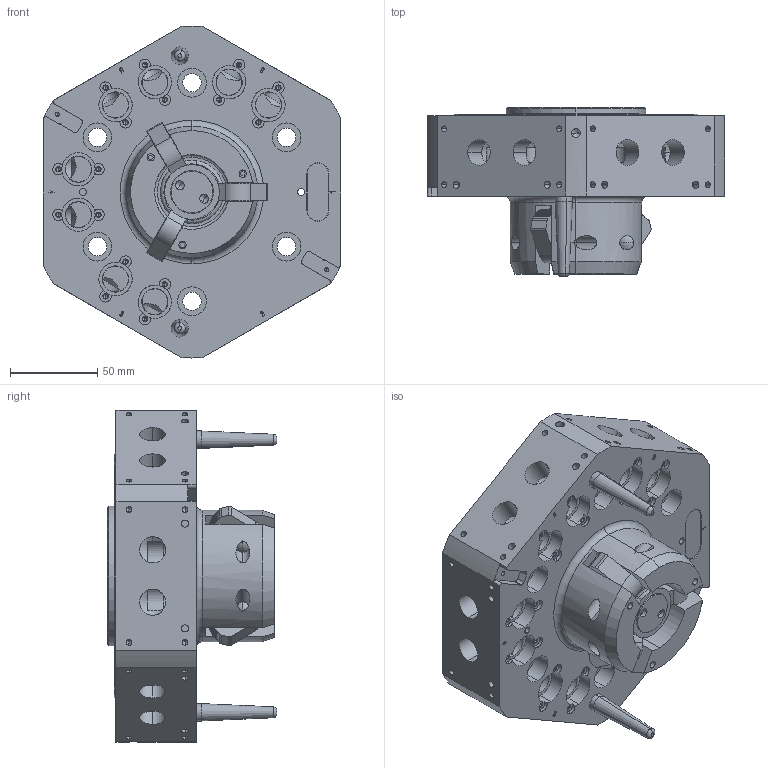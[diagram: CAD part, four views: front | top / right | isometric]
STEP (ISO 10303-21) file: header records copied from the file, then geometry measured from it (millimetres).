
FILE_DESCRIPTION (( 'STEP AP214' ), '1' );
FILE_NAME ('1800868A REV00.STEP', '2019-07-15T18:30:20', ( '' ), ( '' ), 'SwSTEP 2.0', 'SolidWorks 2019', '' );
FILE_SCHEMA (( 'AUTOMOTIVE_DESIGN' ));
Length unit declared in the file: millimetre
Products named in the file (24): 0104-B71N; 0104-C62N; 0109-P32N; 0701-P16N; 1601-D29A; 0107-C47N; 0104-B63N; 0104-B59N; 0104-B64N; 0201-P78N; 48427; 1600-E03N; 1604-C94A; 1604-C95N; 1600-P57N; 1600-C05N; 48016_48016; 49185; 0601-P65N; 0701-P17N; 1800868A REV00; 89504-P1063; 1600-C04N; 49537
Assembly tree (41 placements, depth 3):
  1800868A REV00
    1601-D29A
      1600-E03N
      1600-C04N
      1600-C05N
      0104-B71N  x2
      0701-P16N
      48427  x2
      0701-P17N
      0109-P32N
      0104-B59N  x3
      0107-C47N  x3
      0104-C62N
      0104-B64N
      0104-B63N
      49185  x2
      0201-P78N
      48016_48016  x6
      49537  x3
    1604-C94A
      1604-C95N
      89504-P1063  x4
      0601-P65N  x2
    1600-P57N
Bounding box: 170 x 97 x 190 mm (x, y, z)
Volume: 1077537.4 mm3; surface area: 246260.1 mm2
Topology: 39 solids, 39 shells, 1847 faces, 4572 edges, 2872 vertices
Faces by surface type: plane 694, cylinder 609, cone 278, bspline 182, torus 68, sphere 16
Entity records: 64836 total; most frequent: CARTESIAN_POINT 26629, ORIENTED_EDGE 7396, DIRECTION 7230, EDGE_CURVE 3698, AXIS2_PLACEMENT_3D 2693, VERTEX_POINT 2389, LINE 1844, VECTOR 1844
